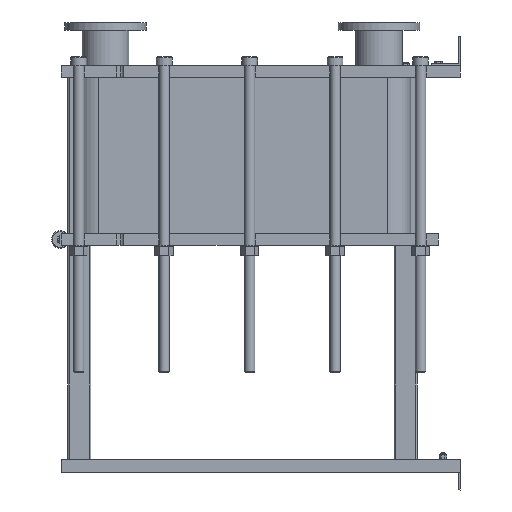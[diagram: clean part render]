
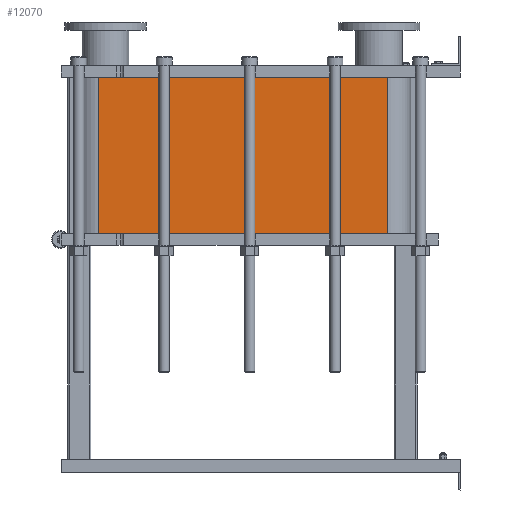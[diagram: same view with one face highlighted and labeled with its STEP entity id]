
A CAD part, left-side view. The second image highlights one B-rep face of the part: STEP entity #12070.
In plain terms, the highlighted planar face has unit normal (-1, 0, 0).
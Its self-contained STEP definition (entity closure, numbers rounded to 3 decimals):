
#1064=LINE('',#21140,#2164);
#1065=LINE('',#21144,#2165);
#1066=LINE('',#21146,#2166);
#1067=LINE('',#21147,#2167);
#2164=VECTOR('',#15790,10.);
#2165=VECTOR('',#15795,10.);
#2166=VECTOR('',#15796,10.);
#2167=VECTOR('',#15797,10.);
#3304=FACE_OUTER_BOUND('',#4091,.T.);
#4091=EDGE_LOOP('',(#9793,#9794,#9795,#9796));
#5677=VERTEX_POINT('',#21137);
#5678=VERTEX_POINT('',#21139);
#5679=VERTEX_POINT('',#21143);
#5680=VERTEX_POINT('',#21145);
#7118=EDGE_CURVE('',#5678,#5677,#1064,.T.);
#7120=EDGE_CURVE('',#5677,#5679,#1065,.T.);
#7121=EDGE_CURVE('',#5680,#5679,#1066,.T.);
#7122=EDGE_CURVE('',#5680,#5678,#1067,.T.);
#9793=ORIENTED_EDGE('',*,*,#7120,.T.);
#9794=ORIENTED_EDGE('',*,*,#7121,.F.);
#9795=ORIENTED_EDGE('',*,*,#7122,.T.);
#9796=ORIENTED_EDGE('',*,*,#7118,.T.);
#11441=PLANE('',#13191);
#12070=ADVANCED_FACE('',(#3304),#11441,.T.);
#13191=AXIS2_PLACEMENT_3D('',#21142,#15793,#15794);
#15790=DIRECTION('',(0.,0.,-1.));
#15793=DIRECTION('center_axis',(-1.,0.,0.));
#15794=DIRECTION('ref_axis',(0.,1.,0.));
#15795=DIRECTION('',(0.,-1.,0.));
#15796=DIRECTION('',(0.,0.,-1.));
#15797=DIRECTION('',(0.,1.,0.));
#21137=CARTESIAN_POINT('',(-248.152,1243.818,-538.2));
#21139=CARTESIAN_POINT('',(-248.152,1243.818,0.));
#21140=CARTESIAN_POINT('',(-248.152,1243.818,0.));
#21142=CARTESIAN_POINT('Origin',(-248.152,251.818,0.));
#21143=CARTESIAN_POINT('',(-248.152,251.818,-538.2));
#21144=CARTESIAN_POINT('',(-248.152,499.818,-538.2));
#21145=CARTESIAN_POINT('',(-248.152,251.818,0.));
#21146=CARTESIAN_POINT('',(-248.152,251.818,0.));
#21147=CARTESIAN_POINT('',(-248.152,251.818,0.));
